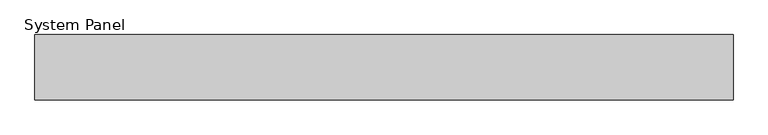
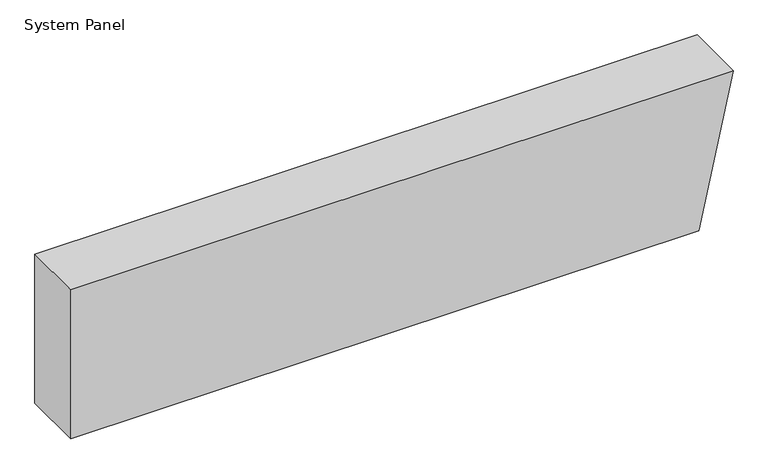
"""IFC4 building model written with IfcOpenShell, lengths in millimetres: plate geometry, System Panel : MetecnoPanel 150mm Horizontal - Plain Astro - PIR."""

from ifc_helpers import new_model, si_unit, frame, origin, place, context, project, spatial, polyline, outline, extrude, source, transform, mapped, element, save


def system_panel_7c7c704d(model_context):
    return source(origin(), model_context, "Body", "SweptSolid", [
        extrude(outline(polyline([(0.0, -800.0), (0.0, 717.3970701), (379.9704237, 800.0), (379.9704237, -800.0), (0.0, -800.0)])), frame((0.0, -150.0, 0.0), z_axis=(0.0, 1.0, 0.0), x_axis=(0.0, 0.0, 1.0)), (0.0, 0.0, 1.0), 150.0),
    ])


if __name__ == "__main__":
    model = new_model("IFC4")
    model_context = context("Model", 3, world=origin())
    ifc_project = project(units=[si_unit("LENGTHUNIT", "METRE", prefix="MILLI")], contexts=[model_context])
    site = spatial("IfcSite", under=ifc_project)
    building = spatial("IfcBuilding", under=site)
    placement = place(None, origin())
    system_panel_shape = system_panel_7c7c704d(model_context)
    element("IfcPlate", 1, ObjectType="System Panel : MetecnoPanel 150mm Horizontal - Plain Astro - PIR", at=placement, inside=building, context=model_context, shape_type="MappedRepresentation", body=[
        mapped(system_panel_shape, transform((0.0, 0.0, 0.0), x_axis=(1.0, 0.0, 0.0), y_axis=(0.0, 1.0, 0.0), z_axis=(0.0, 0.0, 1.0))),
    ])
    save(model, "model.ifc")
